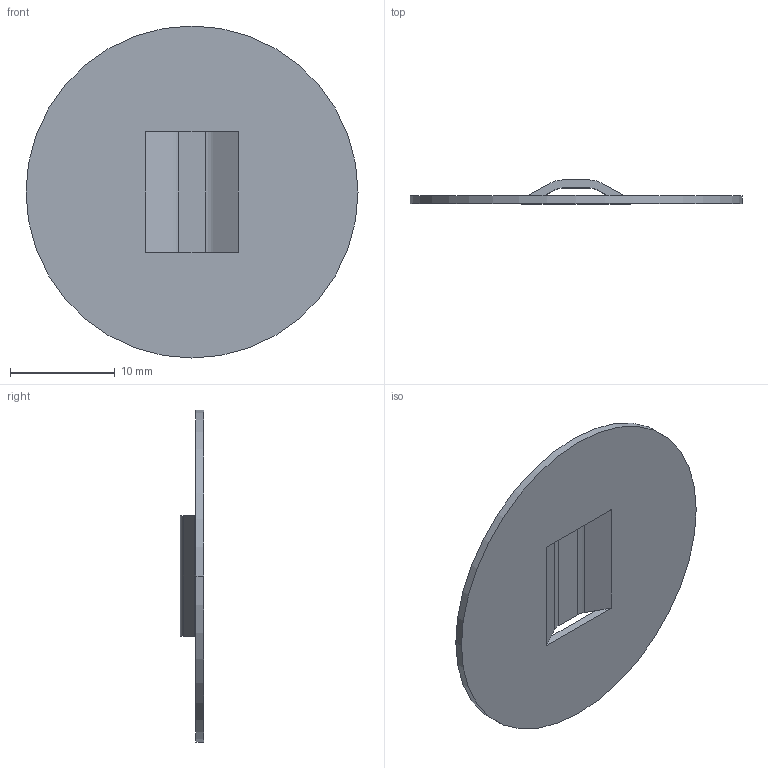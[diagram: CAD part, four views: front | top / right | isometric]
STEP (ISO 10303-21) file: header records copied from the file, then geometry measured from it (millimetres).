
FILE_DESCRIPTION (( 'STEP AP203' ), '1' );
FILE_NAME ('1534793-10.STEP', '2024-11-18T12:26:24', ( 'Admin' ), ( 'Microsoft' ), 'SwSTEP 2.0', 'SolidWorks 2024', '' );
FILE_SCHEMA (( 'CONFIG_CONTROL_DESIGN' ));
Length unit declared in the file: inch
Products named in the file (1): 1534793-10
Bounding box: 31.75 x 2.26 x 31.75 mm (x, y, z)
Volume: 609.8 mm3; surface area: 1699.9 mm2
Topology: 1 solids, 1 shells, 20 faces, 56 edges, 36 vertices
Faces by surface type: plane 12, cylinder 8
Entity records: 731 total; most frequent: DIRECTION 114, CARTESIAN_POINT 113, ORIENTED_EDGE 112, EDGE_CURVE 56, VECTOR 40, LINE 40, AXIS2_PLACEMENT_3D 37, VERTEX_POINT 36
